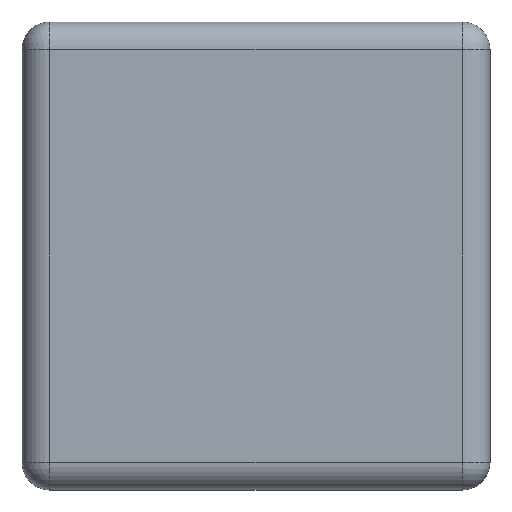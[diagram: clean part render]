
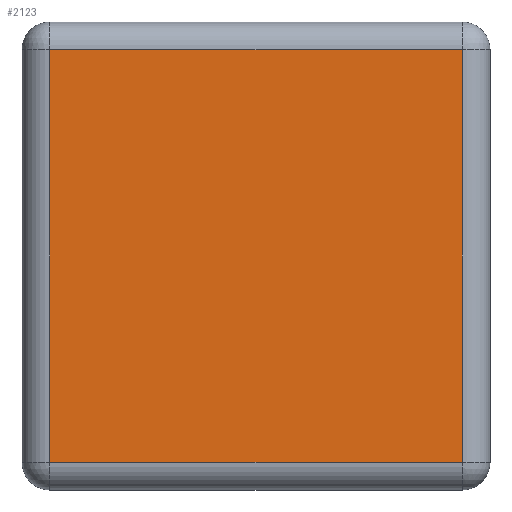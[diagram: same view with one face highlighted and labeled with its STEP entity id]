
A CAD part, front view. The second image highlights one B-rep face of the part: STEP entity #2123.
In plain terms, the highlighted planar face has unit normal (0, -1, 0).
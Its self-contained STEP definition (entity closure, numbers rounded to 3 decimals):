
#368 = ORIENTED_EDGE ( 'NONE', *, *, #4671, .T. ) ;
#539 = ORIENTED_EDGE ( 'NONE', *, *, #788, .T. ) ;
#598 = EDGE_LOOP ( 'NONE', ( #539, #368, #3994, #1325 ) ) ;
#703 = LINE ( 'NONE', #1823, #2552 ) ;
#788 = EDGE_CURVE ( 'NONE', #3688, #3618, #4838, .T. ) ;
#1325 = ORIENTED_EDGE ( 'NONE', *, *, #4598, .T. ) ;
#1415 = VERTEX_POINT ( 'NONE', #4751 ) ;
#1432 = EDGE_CURVE ( 'NONE', #4155, #1415, #703, .T. ) ;
#1459 = LINE ( 'NONE', #3363, #3104 ) ;
#1671 = DIRECTION ( 'NONE',  ( 0., 0., 1. ) ) ;
#1731 = DIRECTION ( 'NONE',  ( 1., 0., 0. ) ) ;
#1823 = CARTESIAN_POINT ( 'NONE',  ( 11.2, -9.8, -11.2 ) ) ;
#1998 = VECTOR ( 'NONE', #3343, 1000. ) ;
#2037 = LINE ( 'NONE', #3545, #2080 ) ;
#2080 = VECTOR ( 'NONE', #1671, 1000. ) ;
#2102 = PLANE ( 'NONE',  #3899 ) ;
#2122 = CARTESIAN_POINT ( 'NONE',  ( -11.2, -9.8, -11.2 ) ) ;
#2123 = ADVANCED_FACE ( 'NONE', ( #2476 ), #2102, .F. ) ;
#2186 = CARTESIAN_POINT ( 'NONE',  ( -11.2, -9.8, 11.2 ) ) ;
#2476 = FACE_OUTER_BOUND ( 'NONE', #598, .T. ) ;
#2477 = CARTESIAN_POINT ( 'NONE',  ( 11.2, -9.8, 11.2 ) ) ;
#2552 = VECTOR ( 'NONE', #4014, 1000. ) ;
#2625 = DIRECTION ( 'NONE',  ( 0., 0., -1. ) ) ;
#3104 = VECTOR ( 'NONE', #2625, 1000. ) ;
#3343 = DIRECTION ( 'NONE',  ( -1., 0., 0. ) ) ;
#3363 = CARTESIAN_POINT ( 'NONE',  ( -11.2, -9.8, -11.2 ) ) ;
#3545 = CARTESIAN_POINT ( 'NONE',  ( 11.2, -9.8, 11.2 ) ) ;
#3604 = DIRECTION ( 'NONE',  ( 0., 1., 0. ) ) ;
#3618 = VERTEX_POINT ( 'NONE', #4252 ) ;
#3688 = VERTEX_POINT ( 'NONE', #2477 ) ;
#3847 = CARTESIAN_POINT ( 'NONE',  ( -11.2, -9.8, -11.2 ) ) ;
#3899 = AXIS2_PLACEMENT_3D ( 'NONE', #2122, #3604, #1731 ) ;
#3994 = ORIENTED_EDGE ( 'NONE', *, *, #1432, .T. ) ;
#4014 = DIRECTION ( 'NONE',  ( 1., 0., 0. ) ) ;
#4155 = VERTEX_POINT ( 'NONE', #3847 ) ;
#4252 = CARTESIAN_POINT ( 'NONE',  ( -11.2, -9.8, 11.2 ) ) ;
#4598 = EDGE_CURVE ( 'NONE', #1415, #3688, #2037, .T. ) ;
#4671 = EDGE_CURVE ( 'NONE', #3618, #4155, #1459, .T. ) ;
#4751 = CARTESIAN_POINT ( 'NONE',  ( 11.2, -9.8, -11.2 ) ) ;
#4838 = LINE ( 'NONE', #2186, #1998 ) ;
